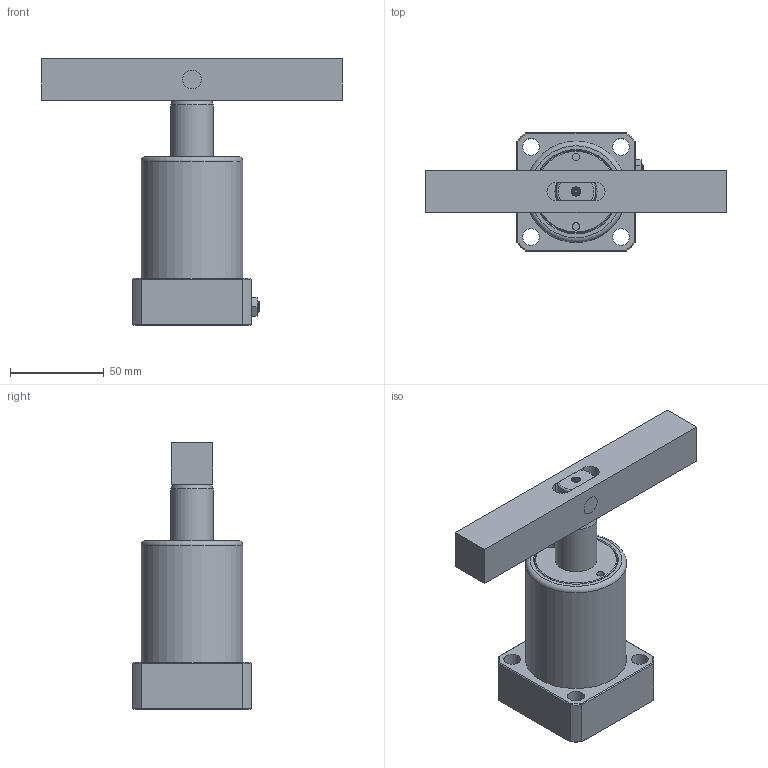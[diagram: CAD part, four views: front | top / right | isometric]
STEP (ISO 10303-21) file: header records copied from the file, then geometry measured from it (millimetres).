
FILE_DESCRIPTION(/* description */ ('Unknown'),/* implementation_level */ '2;1');
FILE_NAME(/* name */ 'HSC-MF40D-B',/* time_stamp */ '2019-05-27T16:07:16+08:00',/* author */ ('Unknown'),/* organization */ ('Unknown'),/* preprocessor_version */ 'ST-DEVELOPER v16.7',/* originating_system */ 'DEX',/* authorisation */ $);
FILE_SCHEMA (('AUTOMOTIVE_DESIGN {1 0 10303 214 3 1 1}'));
Length unit declared in the file: millimetre
Products named in the file (5): HSC-MF40D-B; HSC-MF40D-CYLINDER; HSC-4002-D-AXLE CENTRE; HSC-4002-D-FIXED PIN; HSC-40D-B
Assembly tree (4 placements, depth 2):
  HSC-MF40D-B
    HSC-MF40D-CYLINDER
    HSC-4002-D-AXLE CENTRE
    HSC-4002-D-FIXED PIN
    HSC-40D-B
Bounding box: 160 x 63 x 142.2 mm (x, y, z)
Volume: 295806.3 mm3; surface area: 63970.5 mm2
Topology: 4 solids, 4 shells, 139 faces, 298 edges, 183 vertices
Faces by surface type: plane 58, cylinder 28, cone 24, bspline 24, torus 5
Full cylindrical faces by diameter (mm): 4 x2, 5 x2, 6 x1, 9 x4, 10 x4, 12 x2, 22.4 x2, 40 x2, 54 x1
Entity records: 3917 total; most frequent: CARTESIAN_POINT 1100, DIRECTION 516, ORIENTED_EDGE 512, EDGE_CURVE 256, AXIS2_PLACEMENT_3D 220, EDGE_LOOP 204, FACE_BOUND 204, VERTEX_POINT 174
